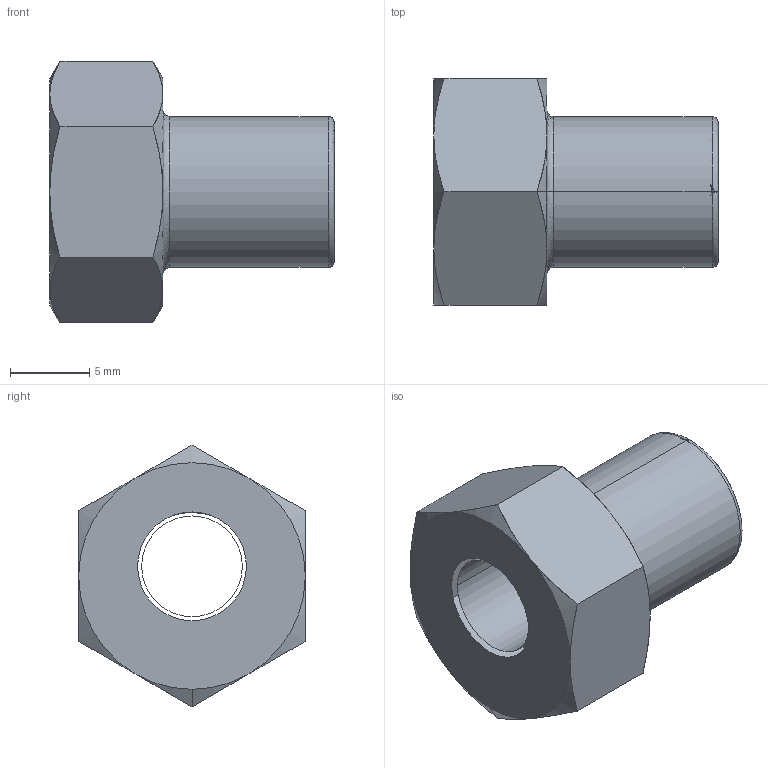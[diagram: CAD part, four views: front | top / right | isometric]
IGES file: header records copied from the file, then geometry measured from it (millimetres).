
Start section: 3D InterOp IGES (v. 2019 1.0.2), Spatial Corp. Copyright (c) 1999-2017.
Global section: file name: BX2SS.igs; native system: Spatial Corp.; preprocessor: 3D InterOp GENERIC/IGES 3.0; author: Noname; organization: Noname; date: 20200930.105801; units: millimetre
Bounding box: 17.93 x 14.29 x 16.5 mm (x, y, z)
Surface area: 1359.9 mm2 (no closed solid volume)
Topology: 0 solids, 0 shells, 35 faces, 184 edges, 182 vertices
Faces by surface type: revolution 26, extrusion 9
